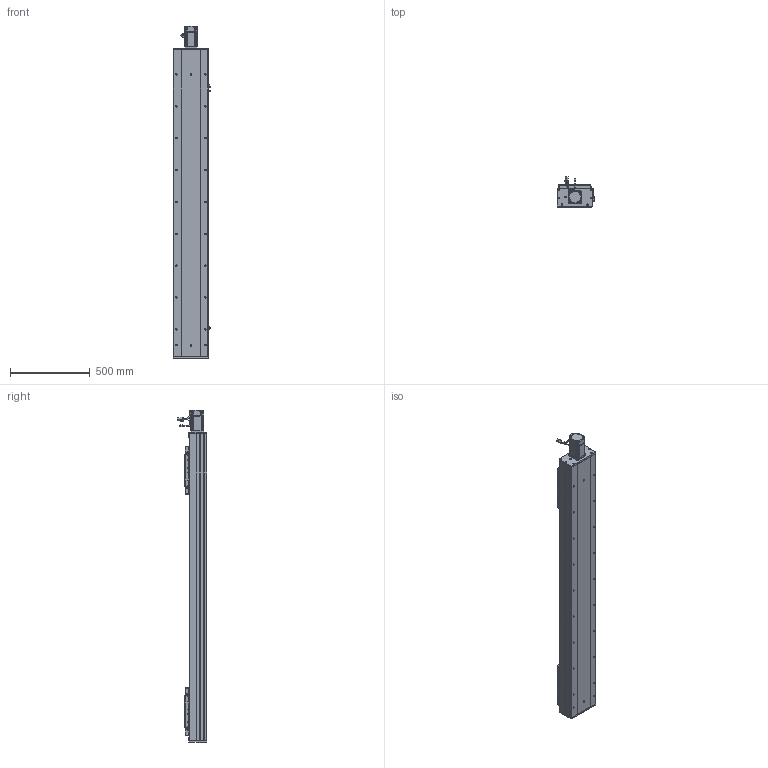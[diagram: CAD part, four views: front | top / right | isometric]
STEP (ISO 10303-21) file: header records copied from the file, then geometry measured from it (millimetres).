
FILE_DESCRIPTION (( 'STEP AP203' ), '1' );
FILE_NAME ('RY220F-L2525-300-MK.SLDASM_1500.step', '2022-07-04T01:04:12', ( '' ), ( '' ), 'SwSTEP 2.0', 'SolidWorks 2016', '' );
FILE_SCHEMA (( 'CONFIG_CONTROL_DESIGN' ));
Length unit declared in the file: millimetre
Products named in the file (15): RY220F-詩湍揤踡輸; RY220F臏賑釱25-32佪裝; RY220F綴裔啣; RY220F-672覜茼んえ; 怢湛750W_ECMA-CX0807ES; RY220F-祥凄詩湍-MK-300_1500; RY220F-滅鳥奻裔; RY220Fヶ裔啣; RY220F菁釱MK-300_1500; 覜茼ん672; RY220电机支撑座FK20（PCD90M6）; 滅袉蝶18-20; 滅袉蝶18-24; RY220F-奻裔啣-300_1500; RY220F-L2525-300-MK.SLDASM_1500
Assembly tree (23 placements, depth 2):
  RY220F-L2525-300-MK.SLDASM_1500
    RY220F菁釱MK-300_1500
    RY220电机支撑座FK20（PCD90M6）
    RY220F-奻裔啣-300_1500  x2
    怢湛750W_ECMA-CX0807ES
    RY220F臏賑釱25-32佪裝  x2
    RY220F-滅鳥奻裔  x2
    滅袉蝶18-20
    滅袉蝶18-24  x3
    RY220Fヶ裔啣
    RY220F綴裔啣
    RY220F-祥凄詩湍-MK-300_1500
    RY220F-詩湍揤踡輸  x2
    覜茼ん672  x3
    RY220F-672覜茼んえ  x2
Bounding box: 233.7 x 187.27 x 2084.3 mm (x, y, z)
Volume: 18147196.2 mm3; surface area: 4603789.2 mm2
Topology: 24 solids, 24 shells, 2834 faces, 7750 edges, 4780 vertices
Faces by surface type: cylinder 1290, plane 1030, cone 451, bspline 37, sphere 16, torus 10
Entity records: 70938 total; most frequent: CARTESIAN_POINT 18808, ORIENTED_EDGE 10530, DIRECTION 10334, EDGE_CURVE 5265, AXIS2_PLACEMENT_3D 3699, VERTEX_POINT 3420, LINE 2936, VECTOR 2936
